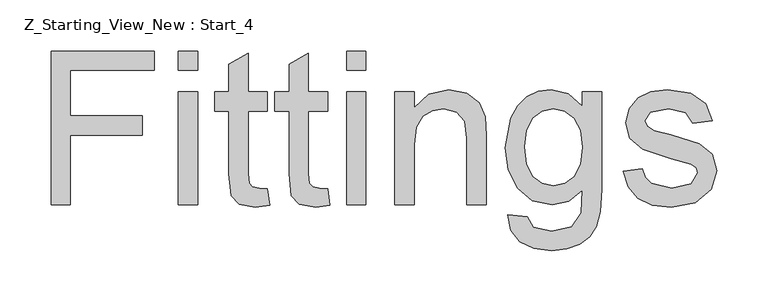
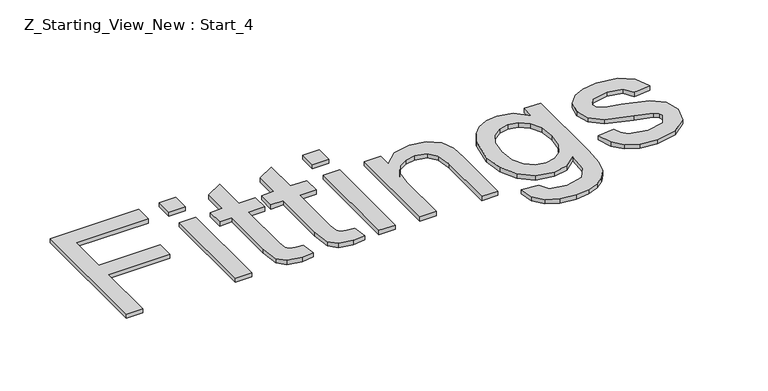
"""IFC4 building model written with IfcOpenShell, lengths in millimetres: pipe fitting geometry, Z_Starting_View_New : Start_4."""

from ifc_helpers import new_model, si_unit, origin, origin_with_axes, place, context, project, spatial, polyline, outline, extrude, source, transform, mapped, element, save


def z_starting_view_new_start_4_74379c6d(model_context):
    return source(origin(), model_context, "Body", "SweptSolid", [
        extrude(outline(polyline([(23912.7502861, 7445.7857303), (23912.7502861, 7596.4701955), (24013.9914112, 7596.4701955), (24013.9914112, 7577.6346373), (23931.5858443, 7577.6346373), (23931.5858443, 7532.9001867), (24002.2191874, 7532.9001867), (24002.2191874, 7514.0646286), (23931.5858443, 7514.0646286), (23931.5858443, 7445.7857303), (23912.7502861, 7445.7857303)])), origin_with_axes(), (0.0, 0.0, 1.0), 5.0),
        extrude(outline(polyline([(24037.5358589, 7445.7857303), (24037.5358589, 7556.4446344), (24056.3714171, 7556.4446344), (24056.3714171, 7445.7857303), (24037.5358589, 7445.7857303)])), origin_with_axes(), (0.0, 0.0, 1.0), 5.0),
        extrude(outline(polyline([(24037.5358589, 7577.6346373), (24037.5358589, 7596.4701955), (24056.3714171, 7596.4701955), (24056.3714171, 7577.6346373), (24037.5358589, 7577.6346373)])), origin_with_axes(), (0.0, 0.0, 1.0), 5.0),
        extrude(outline(polyline([(24124.6503154, 7461.4942915), (24127.0047601, 7445.2339073), (24112.9148797, 7443.4312855), (24097.1327421, 7446.5582825), (24089.2600674, 7454.7620509), (24086.9791991, 7476.1359949), (24086.9791991, 7537.6090763), (24072.8525304, 7537.6090763), (24072.8525304, 7556.4446344), (24086.9791991, 7556.4446344), (24086.9791991, 7583.3368083), (24105.8147572, 7594.4100563), (24105.8147572, 7556.4446344), (24124.6503154, 7556.4446344), (24124.6503154, 7537.6090763), (24105.8147572, 7537.6090763), (24105.8147572, 7476.6878179), (24106.8080386, 7466.9757332), (24110.0270061, 7463.5360365), (24116.4465469, 7462.2668436), (24124.6503154, 7461.4942915)])), origin_with_axes(), (0.0, 0.0, 1.0), 5.0),
        extrude(outline(polyline([(24183.5114346, 7461.4942915), (24185.8658794, 7445.2339073), (24171.7759989, 7443.4312855), (24155.9938613, 7446.5582825), (24148.1211867, 7454.7620509), (24145.8403183, 7476.1359949), (24145.8403183, 7537.6090763), (24131.7136497, 7537.6090763), (24131.7136497, 7556.4446344), (24145.8403183, 7556.4446344), (24145.8403183, 7583.3368083), (24164.6758764, 7594.4100563), (24164.6758764, 7556.4446344), (24183.5114346, 7556.4446344), (24183.5114346, 7537.6090763), (24164.6758764, 7537.6090763), (24164.6758764, 7476.6878179), (24165.6691578, 7466.9757332), (24168.8881253, 7463.5360365), (24175.3076661, 7462.2668436), (24183.5114346, 7461.4942915)])), origin_with_axes(), (0.0, 0.0, 1.0), 5.0),
        extrude(outline(polyline([(24202.3469927, 7445.7857303), (24202.3469927, 7556.4446344), (24221.1825509, 7556.4446344), (24221.1825509, 7445.7857303), (24202.3469927, 7445.7857303)])), origin_with_axes(), (0.0, 0.0, 1.0), 5.0),
        extrude(outline(polyline([(24202.3469927, 7577.6346373), (24202.3469927, 7596.4701955), (24221.1825509, 7596.4701955), (24221.1825509, 7577.6346373), (24202.3469927, 7577.6346373)])), origin_with_axes(), (0.0, 0.0, 1.0), 5.0),
        extrude(outline(polyline([(24249.4358881, 7445.7857303), (24249.4358881, 7556.4446344), (24268.2714463, 7556.4446344), (24268.2714463, 7540.9935906), (24282.6740264, 7554.347707), (24302.337319, 7558.7990792), (24320.1244135, 7555.2122297), (24332.2645193, 7545.7944507), (24337.911508, 7531.9436935), (24338.9047894, 7513.7335348), (24338.9047894, 7445.7857303), (24320.0692312, 7445.7857303), (24320.0692312, 7511.195149), (24317.8987274, 7527.8602034), (24310.2283878, 7536.6709772), (24297.2973357, 7539.963521), (24286.2654744, 7538.114914), (24276.8614909, 7532.5690929), (24270.4189574, 7521.8545298), (24268.2714463, 7504.4996967), (24268.2714463, 7445.7857303), (24249.4358881, 7445.7857303)])), origin_with_axes(), (0.0, 0.0, 1.0), 5.0),
        extrude(outline(polyline([(24360.0947923, 7436.3679512), (24378.9303504, 7434.0135064), (24385.0371915, 7424.0806926), (24403.3209267, 7419.8868378), (24422.5979433, 7424.6325155), (24431.7949931, 7437.9498438), (24433.0825801, 7459.9123989), (24419.8204342, 7449.3173974), (24403.6520205, 7445.7857303), (24384.2324497, 7449.8968116), (24369.7516946, 7462.2300555), (24360.7431843, 7480.3114555), (24357.7403475, 7501.6670053), (24363.1298187, 7530.8584417), (24369.7241035, 7542.7088404), (24378.7280153, 7551.5150157), (24389.8334531, 7556.9780633), (24402.7323155, 7558.7990792), (24419.5353256, 7554.6788008), (24433.0825801, 7542.3179658), (24433.0825801, 7556.4446344), (24451.9181383, 7556.4446344), (24451.9181383, 7460.9056803), (24450.6305513, 7438.8465561), (24446.7677903, 7424.3198158), (24440.1137247, 7414.6859061), (24430.4522239, 7407.3052736), (24417.9948198, 7402.6147781), (24402.9530447, 7401.0512797), (24385.4280662, 7403.2539731), (24371.6278928, 7409.8620534), (24362.7757323, 7420.8939148), (24360.0947923, 7436.3679512)]), holes=[polyline([(24376.5759057, 7502.9545923), (24378.5854611, 7485.6779341), (24384.6141273, 7473.7999442), (24393.6778199, 7466.9159524), (24404.7924547, 7464.6212884), (24415.824316, 7466.9021568), (24424.9339939, 7473.7447619), (24431.0454336, 7485.4710005), (24433.0825801, 7502.4027693), (24430.9856527, 7518.7321314), (24424.6948706, 7530.4905597), (24415.4518355, 7537.5952807), (24404.4981491, 7539.963521), (24393.7421993, 7537.6320689), (24384.7244919, 7530.6377125), (24378.6130522, 7519.0540281), (24376.5759057, 7502.9545923)])]), origin_with_axes(), (0.0, 0.0, 1.0), 5.0),
        extrude(outline(polyline([(24473.1081412, 7478.747957), (24491.9436993, 7481.1024018), (24494.9143465, 7473.0457861), (24500.6625026, 7467.122886), (24520.638495, 7462.2668436), (24539.8419351, 7466.7182158), (24546.095929, 7477.1660645), (24544.5232335, 7481.9669245), (24539.8051469, 7485.6273503), (24520.4177658, 7490.9984275), (24492.0540639, 7500.2138715), (24479.6748348, 7510.9744198), (24475.462586, 7526.1679462), (24478.8471003, 7540.2026443), (24488.0809384, 7550.9264045), (24500.0554973, 7556.4998167), (24516.2606992, 7558.7990792), (24539.1797475, 7555.1018651), (24553.7478745, 7545.0954749), (24560.2225976, 7528.1912972), (24541.3870395, 7525.8368524), (24534.3053111, 7536.2295188), (24517.7322272, 7539.963521), (24499.7060094, 7536.3950657), (24494.2981441, 7528.0809326), (24496.5422243, 7522.5994909), (24503.5687704, 7518.4424243), (24519.7923664, 7514.4325106), (24547.4386983, 7505.5665545), (24560.2777799, 7495.523376), (24564.9314872, 7479.1526272), (24559.4684396, 7461.1264095), (24543.7046961, 7448.0482045), (24520.3809776, 7443.4312855), (24501.3890696, 7445.6569716), (24487.5291154, 7452.3340298), (24478.2768832, 7463.3888837), (24473.1081412, 7478.747957)])), origin_with_axes(), (0.0, 0.0, 1.0), 5.0),
    ])


if __name__ == "__main__":
    model = new_model("IFC4")
    model_context = context("Model", 3, world=origin())
    ifc_project = project(units=[si_unit("LENGTHUNIT", "METRE", prefix="MILLI")], contexts=[model_context])
    site = spatial("IfcSite", under=ifc_project)
    building = spatial("IfcBuilding", under=site)
    placement = place(None, origin())
    z_starting_view_new_start_4_shape = z_starting_view_new_start_4_74379c6d(model_context)
    element("IfcPipeFitting", 1, ObjectType="Z_Starting_View_New : Start_4", at=placement, inside=building, context=model_context, shape_type="MappedRepresentation", body=[
        mapped(z_starting_view_new_start_4_shape, transform((0.0, 0.0, 0.0), x_axis=(1.0, 0.0, 0.0), y_axis=(0.0, 1.0, 0.0), z_axis=(0.0, 0.0, 1.0))),
    ])
    save(model, "model.ifc")
